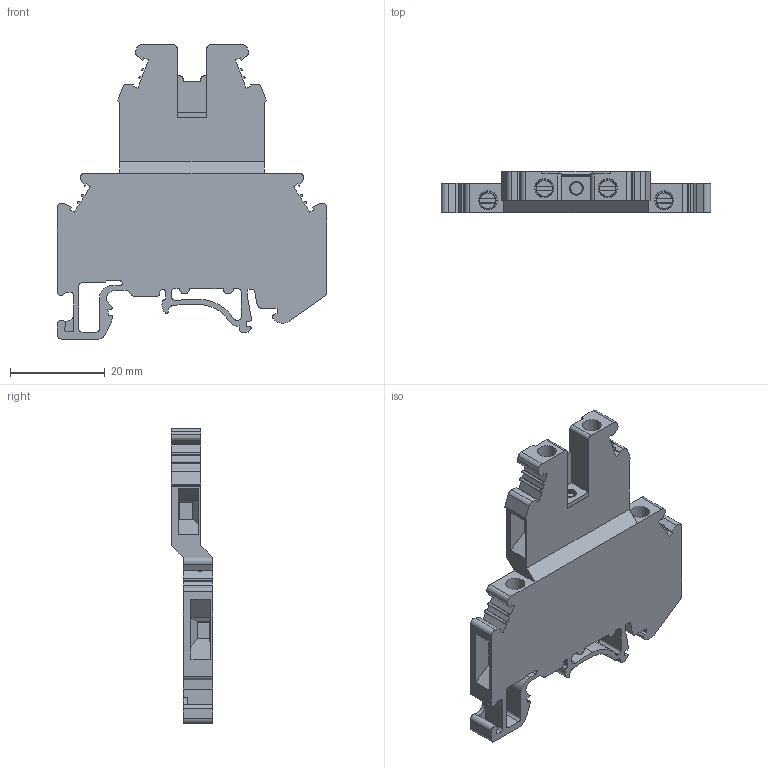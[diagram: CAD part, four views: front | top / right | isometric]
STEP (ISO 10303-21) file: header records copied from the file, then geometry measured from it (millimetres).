
FILE_DESCRIPTION( ('This file contains a STEP AP42 implementation' ,'as created by ZW3D STEP Interface translator.') ,'2;1' );
FILE_NAME( 'RUG-D 傷赽-耀倰.stp' ,'24 726.151347', (''), ('ZWCAD Software Co.'), 'Version 1.0', 'ZW3D to STEP translator', '' );
FILE_SCHEMA(('AUTOMOTIVE_DESIGN { 1 0 10303 214 1 1 1 1 }'));
Length unit declared in the file: millimetre
Products named in the file (2): 0; RUG-D-B傷赽-耀倰
Bounding box: 56.86 x 8.7 x 62.14 mm (x, y, z)
Volume: 12242.9 mm3; surface area: 7866 mm2
Topology: 1 solids, 1 shells, 377 faces, 989 edges, 629 vertices
Faces by surface type: plane 256, cylinder 90, cone 28, bspline 3
Full cylindrical faces by diameter (mm): 2.4 x2, 2.5 x1, 3.5 x4, 4 x4
Entity records: 12281 total; most frequent: CARTESIAN_POINT 2489, ORIENTED_EDGE 1978, DIRECTION 1891, EDGE_CURVE 989, VECTOR 719, LINE 719, VERTEX_POINT 629, AXIS2_PLACEMENT_3D 586
